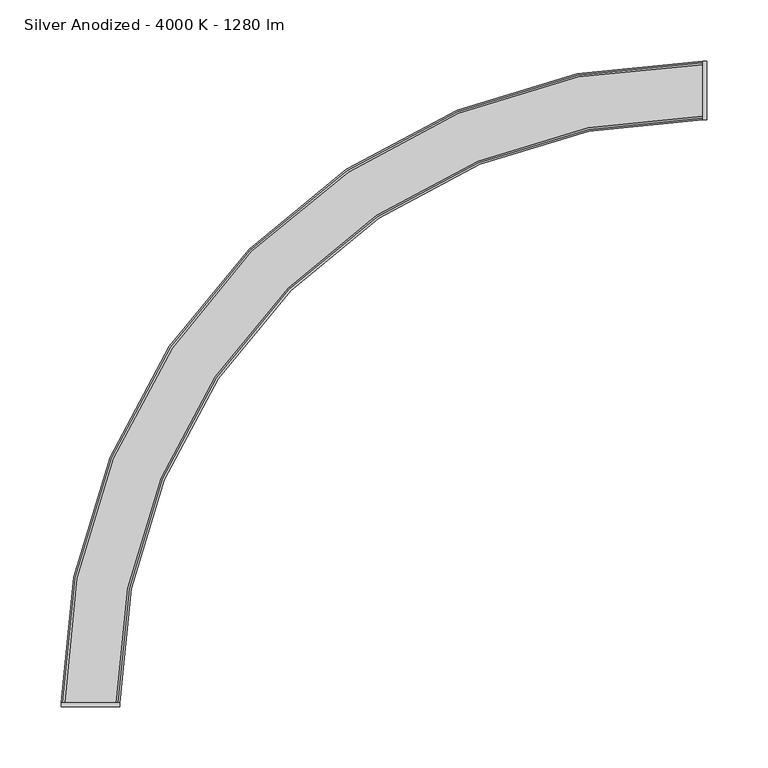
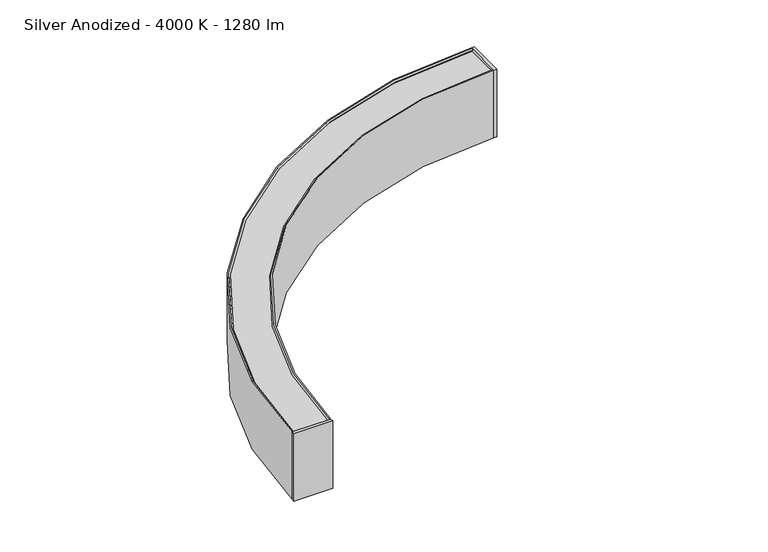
"""IFC4 building model written with IfcOpenShell, lengths in millimetres: light fixture geometry, KLUŚ - SERPENT - R NT 1_4 r 500 : Silver Anodized - 4000 K - 1280 lm."""

from ifc_helpers import new_model, si_unit, point, frame, frame_2d, origin, origin_with_axes, place, context, project, spatial, polyline, circle_curve, trimmed, segment, composite_curve, outline, extrude, source, transform, mapped, element, save
from ifc_brep_helpers import plane_surface, cylinder_surface, revolved_surface, advanced_brep


def silver_anodized_4000_k_1280_lm_8471934a(model_context):
    return source(origin(), model_context, "Body", "SolidModel", [
        advanced_brep(
        [(383.3695119, 482.0926563, 0.8), (381.488375, 489.8683443, 0.8), (381.488375, 489.8683443, 0.0), (383.3695119, 482.0926563, 0.0), (372.113479, 469.0810567, 0.0), (373.5125746, 463.2978887, 5.3344882), (373.5125746, 463.2978887, 14.5), (373.3244609, 464.0754575, 14.5), (373.3244609, 464.0754575, 5.691693), (372.0414988, 469.3785872, 0.8), (365.6014801, 495.9984342, 0.8), (364.318518, 501.3015639, 5.691693), (364.318518, 501.3015639, 14.5), (364.1304043, 502.0791327, 14.5), (364.1304043, 502.0791327, 5.3344882), (365.5294999, 496.2959647, 0.0), (399.328387, 475.6650359, 0.0), (392.7444079, 502.8799439, 0.0), (391.3453123, 508.6631118, 5.3344882), (391.3453123, 508.6631118, 14.5), (391.533426, 507.885543, 14.5), (391.533426, 507.885543, 5.691693), (392.8163881, 502.5824134, 0.8), (399.2564068, 475.9625663, 0.8), (400.5393689, 470.6594367, 5.691693), (400.5393689, 470.6594367, 14.5), (400.7274826, 469.8818679, 14.5), (400.7274826, 469.8818679, 5.3344882)],
        [
            (0, 1, circle_curve(frame((382.4289434, 485.9805003, 0.8), z_axis=(0.0, 0.0, 1.0), x_axis=(0.235142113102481, -0.9719610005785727, 0.0)), 4.0)),
            (1, 2),
            (2, 3, circle_curve(frame((382.4289434, 485.9805003, 0.0), z_axis=(0.0, 0.0, -1.0), x_axis=(0.235142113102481, -0.9719610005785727, 0.0)), 4.0)),
            (3, 0),
            (3, 2, circle_curve(frame((382.4289434, 485.9805003, 0.0), z_axis=(0.0, 0.0, -1.0), x_axis=(0.235142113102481, -0.9719610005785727, 0.0)), 4.0)),
            (1, 0, circle_curve(frame((382.4289434, 485.9805003, 0.8), z_axis=(0.0, 0.0, 1.0), x_axis=(0.235142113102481, -0.9719610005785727, 0.0)), 4.0)),
            (4, 5),
            (5, 6),
            (6, 7),
            (7, 8),
            (8, 9),
            (9, 10),
            (10, 11),
            (11, 12),
            (12, 13),
            (13, 14),
            (14, 15),
            (15, 4),
            (16, 17),
            (17, 18),
            (18, 19),
            (19, 20),
            (20, 21),
            (21, 22),
            (22, 23),
            (23, 24),
            (24, 25),
            (25, 26),
            (26, 27),
            (27, 16),
            (15, 17),
            (16, 4),
            (14, 18),
            (13, 19),
            (12, 20),
            (11, 21),
            (10, 22),
            (9, 23),
            (8, 24),
            (7, 25),
            (6, 26),
            (5, 27),
        ],
        [
            revolved_surface(polyline([(383.3695118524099, 482.0926562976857, 0.8), (383.3695118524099, 482.0926562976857, 0.0)]), (382.4289434, 485.9805003, 0.0), (0.0, 0.0, 1.0)),
            plane_surface(frame((368.8214894, 482.6885107, 0.0), z_axis=(-0.9719610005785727, -0.235142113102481, 0.0), x_axis=(0.0, 0.0, 1.0))),
            plane_surface(frame((396.0363975, 489.2724899, 0.0), z_axis=(0.9719610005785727, 0.235142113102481, 0.0), x_axis=(0.0, 0.0, 1.0))),
            plane_surface(frame((372.113479, 469.0810567, 0.0), z_axis=(0.0, 0.0, -1.0000000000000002), x_axis=(0.9719610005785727, 0.235142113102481, 0.0))),
            plane_surface(frame((365.5294999, 496.2959647, 0.0), z_axis=(-0.15696803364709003, 0.6488280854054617, -0.7445691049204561), x_axis=(0.9719610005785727, 0.235142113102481, 0.0))),
            plane_surface(frame((364.1304043, 502.0791327, 5.3344882), z_axis=(-0.235142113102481, 0.9719610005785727, 0.0), x_axis=(0.9719610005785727, 0.235142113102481, 0.0))),
            plane_surface(frame((364.1304043, 502.0791327, 14.5), z_axis=(0.0, 0.0, 1.0000000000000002), x_axis=(0.9719610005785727, 0.235142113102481, 0.0))),
            plane_surface(frame((364.318518, 501.3015639, 14.5), z_axis=(0.235142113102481, -0.9719610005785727, 0.0), x_axis=(0.9719610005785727, 0.235142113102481, 0.0))),
            plane_surface(frame((364.318518, 501.3015639, 5.691693), z_axis=(0.15696803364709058, -0.6488280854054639, 0.744569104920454), x_axis=(0.9719610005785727, 0.235142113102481, 0.0))),
            plane_surface(frame((365.6014801, 495.9984342, 0.8), z_axis=(0.0, 0.0, 1.0000000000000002), x_axis=(0.9719610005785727, 0.235142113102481, 0.0))),
            plane_surface(frame((372.0414988, 469.3785872, 0.8), z_axis=(-0.15696803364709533, 0.6488280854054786, 0.7445691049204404), x_axis=(0.9719610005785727, 0.235142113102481, 0.0))),
            plane_surface(frame((373.3244609, 464.0754575, 5.691693), z_axis=(-0.235142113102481, 0.9719610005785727, 0.0), x_axis=(0.9719610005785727, 0.235142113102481, 0.0))),
            plane_surface(frame((373.3244609, 464.0754575, 14.5), z_axis=(0.0, 0.0, 1.0000000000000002), x_axis=(0.9719610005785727, 0.235142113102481, 0.0))),
            plane_surface(frame((373.5125746, 463.2978887, 14.5), z_axis=(0.235142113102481, -0.9719610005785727, 0.0), x_axis=(0.9719610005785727, 0.235142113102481, 0.0))),
            plane_surface(frame((373.5125746, 463.2978887, 5.3344882), z_axis=(0.15696803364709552, -0.6488280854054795, -0.7445691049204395), x_axis=(0.9719610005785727, 0.235142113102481, 0.0))),
        ],
        [
            (0, [[1, 2, 3, 4]]),
            (0, [[5, -2, 6, -4]]),
            (1, [[7, 8, 9, 10, 11, 12, 13, 14, 15, 16, 17, 18]]),
            (2, [[19, 20, 21, 22, 23, 24, 25, 26, 27, 28, 29, 30]]),
            (3, [[31, -19, 32, -18], [-5, -3]]),
            (4, [[33, -20, -31, -17]]),
            (5, [[34, -21, -33, -16]]),
            (6, [[35, -22, -34, -15]]),
            (7, [[36, -23, -35, -14]]),
            (8, [[37, -24, -36, -13]]),
            (9, [[38, -25, -37, -12], [-6, -1]]),
            (10, [[39, -26, -38, -11]]),
            (11, [[40, -27, -39, -10]]),
            (12, [[41, -28, -40, -9]]),
            (13, [[42, -29, -41, -8]]),
            (14, [[-32, -30, -42, -7]]),
        ],
    ),
        extrude(outline(polyline([(503.5, 524.0), (503.5, 476.0), (500.0, 476.0), (500.0, 524.0), (503.5, 524.0)])), frame((0.0, 0.0, 5.0), z_axis=(0.0, 0.0, 1.0), x_axis=(1.0, 0.0, 0.0)), (0.0, 0.0, 1.0), 88.0),
        extrude(outline(polyline([(24.0, -3.5), (-24.0, -3.5), (-24.0, 0.0), (24.0, 0.0), (24.0, -3.5)])), frame((0.0, 0.0, 5.0), z_axis=(0.0, 0.0, 1.0), x_axis=(1.0, 0.0, 0.0)), (0.0, 0.0, 1.0), 88.0),
        advanced_brep(
        [(17.9073437, 116.6304881, 0.8), (17.9073437, 116.6304881, 0.0), (10.1316557, 118.511625, 0.0), (10.1316557, 118.511625, 0.8), (30.9189433, 127.886521, 0.0), (3.7040353, 134.4705001, 0.0), (-2.0791327, 135.8695957, 5.3344882), (-2.0791327, 135.8695957, 14.5), (-1.3015639, 135.681482, 14.5), (-1.3015639, 135.681482, 5.691693), (4.0015658, 134.3985199, 0.8), (30.6214128, 127.9585012, 0.8), (35.9245425, 126.6755391, 5.691693), (35.9245425, 126.6755391, 14.5), (36.7021113, 126.4874254, 14.5), (36.7021113, 126.4874254, 5.3344882), (24.3349641, 100.671613, 0.0), (30.1181321, 99.2725174, 5.3344882), (30.1181321, 99.2725174, 14.5), (29.3405633, 99.4606311, 14.5), (29.3405633, 99.4606311, 5.691693), (24.0374337, 100.7435932, 0.8), (-2.5824134, 107.1836119, 0.8), (-7.885543, 108.466574, 5.691693), (-7.885543, 108.466574, 14.5), (-8.6631118, 108.6546877, 14.5), (-8.6631118, 108.6546877, 5.3344882), (-2.8799439, 107.2555921, 0.0)],
        [
            (0, 1),
            (1, 2, circle_curve(frame((14.0194997, 117.5710566, 0.0), z_axis=(0.0, 0.0, -1.0), x_axis=(0.9719610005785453, -0.23514211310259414, 0.0)), 4.0)),
            (2, 3),
            (3, 0, circle_curve(frame((14.0194997, 117.5710566, 0.8), z_axis=(0.0, 0.0, 1.0), x_axis=(0.9719610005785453, -0.23514211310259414, 0.0)), 4.0)),
            (0, 3, circle_curve(frame((14.0194997, 117.5710566, 0.8), z_axis=(0.0, 0.0, 1.0), x_axis=(0.9719610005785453, -0.23514211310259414, 0.0)), 4.0)),
            (2, 1, circle_curve(frame((14.0194997, 117.5710566, 0.0), z_axis=(0.0, 0.0, -1.0), x_axis=(0.9719610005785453, -0.23514211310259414, 0.0)), 4.0)),
            (4, 5),
            (5, 6),
            (6, 7),
            (7, 8),
            (8, 9),
            (9, 10),
            (10, 11),
            (11, 12),
            (12, 13),
            (13, 14),
            (14, 15),
            (15, 4),
            (16, 17),
            (17, 18),
            (18, 19),
            (19, 20),
            (20, 21),
            (21, 22),
            (22, 23),
            (23, 24),
            (24, 25),
            (25, 26),
            (26, 27),
            (27, 16),
            (4, 16),
            (27, 5),
            (26, 6),
            (25, 7),
            (24, 8),
            (23, 9),
            (22, 10),
            (21, 11),
            (20, 12),
            (19, 13),
            (18, 14),
            (17, 15),
        ],
        [
            revolved_surface(polyline([(17.907343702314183, 116.63048814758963, 0.8), (17.907343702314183, 116.63048814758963, 0.0)]), (14.0194997, 117.5710566, 0.0), (0.0, 0.0, 1.0)),
            plane_surface(frame((17.3114893, 131.1785106, 0.0), z_axis=(0.23514211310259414, 0.9719610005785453, 0.0), x_axis=(0.0, 0.0, 1.0))),
            plane_surface(frame((10.7275101, 103.9636025, 0.0), z_axis=(-0.23514211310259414, -0.9719610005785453, 0.0), x_axis=(0.0, 0.0, 1.0))),
            plane_surface(frame((30.9189433, 127.886521, 0.0), z_axis=(0.0, 0.0, -1.0), x_axis=(-0.23514211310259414, -0.9719610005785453, 0.0))),
            plane_surface(frame((3.7040353, 134.4705001, 0.0), z_axis=(-0.6488280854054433, 0.15696803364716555, -0.744569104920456), x_axis=(-0.23514211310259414, -0.9719610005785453, 0.0))),
            plane_surface(frame((-2.0791327, 135.8695957, 5.3344882), z_axis=(-0.9719610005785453, 0.23514211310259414, 0.0), x_axis=(-0.23514211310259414, -0.9719610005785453, 0.0))),
            plane_surface(frame((-2.0791327, 135.8695957, 14.5), z_axis=(0.0, 0.0, 1.0), x_axis=(-0.23514211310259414, -0.9719610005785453, 0.0))),
            plane_surface(frame((-1.3015639, 135.681482, 14.5), z_axis=(0.9719610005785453, -0.23514211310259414, 0.0), x_axis=(-0.23514211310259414, -0.9719610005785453, 0.0))),
            plane_surface(frame((-1.3015639, 135.681482, 5.691693), z_axis=(0.6488280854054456, -0.1569680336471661, 0.7445691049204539), x_axis=(-0.23514211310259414, -0.9719610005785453, 0.0))),
            plane_surface(frame((4.0015658, 134.3985199, 0.8), z_axis=(0.0, 0.0, 1.0), x_axis=(-0.23514211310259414, -0.9719610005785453, 0.0))),
            plane_surface(frame((30.6214128, 127.9585012, 0.8), z_axis=(-0.6488280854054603, 0.15696803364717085, 0.7445691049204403), x_axis=(-0.23514211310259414, -0.9719610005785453, 0.0))),
            plane_surface(frame((35.9245425, 126.6755391, 5.691693), z_axis=(-0.9719610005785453, 0.23514211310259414, 0.0), x_axis=(-0.23514211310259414, -0.9719610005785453, 0.0))),
            plane_surface(frame((35.9245425, 126.6755391, 14.5), z_axis=(0.0, 0.0, 1.0), x_axis=(-0.23514211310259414, -0.9719610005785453, 0.0))),
            plane_surface(frame((36.7021113, 126.4874254, 14.5), z_axis=(0.9719610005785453, -0.23514211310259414, 0.0), x_axis=(-0.23514211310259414, -0.9719610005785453, 0.0))),
            plane_surface(frame((36.7021113, 126.4874254, 5.3344882), z_axis=(0.6488280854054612, -0.15696803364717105, -0.7445691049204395), x_axis=(-0.23514211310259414, -0.9719610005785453, 0.0))),
        ],
        [
            (0, [[1, 2, 3, 4]]),
            (0, [[-1, 5, -3, 6]]),
            (1, [[7, 8, 9, 10, 11, 12, 13, 14, 15, 16, 17, 18]]),
            (2, [[19, 20, 21, 22, 23, 24, 25, 26, 27, 28, 29, 30]]),
            (3, [[-7, 31, -30, 32], [-2, -6]]),
            (4, [[-8, -32, -29, 33]]),
            (5, [[-9, -33, -28, 34]]),
            (6, [[-10, -34, -27, 35]]),
            (7, [[-11, -35, -26, 36]]),
            (8, [[-12, -36, -25, 37]]),
            (9, [[-13, -37, -24, 38], [-4, -5]]),
            (10, [[-14, -38, -23, 39]]),
            (11, [[-15, -39, -22, 40]]),
            (12, [[-16, -40, -21, 41]]),
            (13, [[-17, -41, -20, 42]]),
            (14, [[-18, -42, -19, -31]]),
        ],
    ),
        advanced_brep(
        [(19.95, 0.0, 5.0), (24.0, 0.0, 5.0), (24.0, 0.0, 93.0), (22.65, 0.0, 93.0), (21.15, 0.0, 91.2514719), (22.65, 0.0, 89.5029437), (22.65, 0.0, 13.7), (19.95, 0.0, 13.7), (500.0, 480.05, 5.0), (500.0, 480.05, 13.7), (500.0, 477.35, 13.7), (500.0, 477.35, 89.5029437), (500.0, 478.85, 91.2514719), (500.0, 477.35, 93.0), (500.0, 476.0, 93.0), (500.0, 476.0, 5.0)],
        [
            (0, 1),
            (1, 2),
            (2, 3),
            (3, 4),
            (4, 5),
            (5, 6),
            (6, 7),
            (7, 0),
            (8, 9),
            (9, 10),
            (10, 11),
            (11, 12),
            (12, 13),
            (13, 14),
            (14, 15),
            (15, 8),
            (15, 1, circle_curve(frame((500.0, 0.0, 5.0), z_axis=(0.0, 0.0, 1.0), x_axis=(-1.0, 0.0, 0.0)), 476.0)),
            (0, 8, circle_curve(frame((500.0, 0.0, 5.0), z_axis=(0.0, 0.0, -1.0), x_axis=(-1.0, 0.0, 0.0)), 480.05)),
            (14, 2, circle_curve(frame((500.0, 0.0, 93.0), z_axis=(0.0, 0.0, 1.0), x_axis=(-1.0, 0.0, 0.0)), 476.0)),
            (13, 3, circle_curve(frame((500.0, 0.0, 93.0), z_axis=(0.0, 0.0, 1.0), x_axis=(-1.0, 0.0, 0.0)), 477.35)),
            (12, 4, circle_curve(frame((500.0, 0.0, 91.2514719), z_axis=(0.0, 0.0, 1.0), x_axis=(-1.0, 0.0, 0.0)), 478.85)),
            (11, 5, circle_curve(frame((500.0, 0.0, 89.5029437), z_axis=(0.0, 0.0, 1.0), x_axis=(-1.0, 0.0, 0.0)), 477.35)),
            (10, 6, circle_curve(frame((500.0, 0.0, 13.7), z_axis=(0.0, 0.0, 1.0), x_axis=(-1.0, 0.0, 0.0)), 477.35)),
            (9, 7, circle_curve(frame((500.0, 0.0, 13.7), z_axis=(0.0, 0.0, 1.0), x_axis=(-1.0, 0.0, 0.0)), 480.05)),
        ],
        [
            plane_surface(frame((0.0, 0.0, 5.0), z_axis=(0.0, -1.0, 0.0), x_axis=(0.0, 0.0, 1.0))),
            plane_surface(frame((500.0, 500.0, 5.0), z_axis=(1.0, 0.0, 0.0), x_axis=(0.0, 0.0, 1.0))),
            plane_surface(frame((500.0, 0.0, 5.0), z_axis=(0.0, 0.0, -1.0), x_axis=(-1.0, 0.0, 0.0))),
            revolved_surface(polyline([(24.0, 0.0, 5.0), (24.0, 0.0, 93.0)]), (500.0, 0.0, 5.0), (0.0, 0.0, -1.0)),
            plane_surface(frame((500.0, 0.0, 93.0), z_axis=(0.0, 0.0, 1.0), x_axis=(-1.0, 0.0, 0.0))),
            revolved_surface(polyline([(22.65, 0.0, 93.0), (21.15, 0.0, 91.2514719)]), (500.0, 0.0, 5.0), (0.0, 0.0, -1.0)),
            revolved_surface(polyline([(21.15, 0.0, 91.2514719), (22.65, 0.0, 89.5029437)]), (500.0, 0.0, 5.0), (0.0, 0.0, -1.0)),
            cylinder_surface(frame((500.0, 0.0, 5.0), z_axis=(0.0, 0.0, -1.0), x_axis=(-1.0, 0.0, 0.0)), 477.35),
            plane_surface(frame((500.0, 0.0, 13.7), z_axis=(0.0, 0.0, 1.0), x_axis=(-1.0, 0.0, 0.0))),
            cylinder_surface(frame((500.0, 0.0, 5.0), z_axis=(0.0, 0.0, -1.0), x_axis=(-1.0, 0.0, 0.0)), 480.05),
        ],
        [
            (0, [[1, 2, 3, 4, 5, 6, 7, 8]]),
            (1, [[9, 10, 11, 12, 13, 14, 15, 16]]),
            (2, [[17, -1, 18, -16]]),
            (3, [[19, -2, -17, -15]]),
            (4, [[20, -3, -19, -14]]),
            (5, [[21, -4, -20, -13]]),
            (6, [[22, -5, -21, -12]]),
            (7, [[23, -6, -22, -11]]),
            (8, [[24, -7, -23, -10]]),
            (9, [[-18, -8, -24, -9]]),
        ],
    ),
        advanced_brep(
        [(-19.95, 0.0, 5.0), (-19.95, 0.0, 13.7), (-22.65, 0.0, 13.7), (-22.65, 0.0, 89.5029437), (-21.15, 0.0, 91.2514719), (-22.65, 0.0, 93.0), (-24.0, 0.0, 93.0), (-24.0, 0.0, 5.0), (500.0, 519.95, 5.0), (500.0, 524.0, 5.0), (500.0, 524.0, 93.0), (500.0, 522.65, 93.0), (500.0, 521.15, 91.2514719), (500.0, 522.65, 89.5029437), (500.0, 522.65, 13.7), (500.0, 519.95, 13.7)],
        [
            (0, 1),
            (1, 2),
            (2, 3),
            (3, 4),
            (4, 5),
            (5, 6),
            (6, 7),
            (7, 0),
            (8, 9),
            (9, 10),
            (10, 11),
            (11, 12),
            (12, 13),
            (13, 14),
            (14, 15),
            (15, 8),
            (15, 1, circle_curve(frame((500.0, 0.0, 13.7), z_axis=(0.0, 0.0, 1.0), x_axis=(-1.0, 0.0, 0.0)), 519.95)),
            (0, 8, circle_curve(frame((500.0, 0.0, 5.0), z_axis=(0.0, 0.0, -1.0), x_axis=(-1.0, 0.0, 0.0)), 519.95)),
            (14, 2, circle_curve(frame((500.0, 0.0, 13.7), z_axis=(0.0, 0.0, 1.0), x_axis=(-1.0, 0.0, 0.0)), 522.65)),
            (13, 3, circle_curve(frame((500.0, 0.0, 89.5029437), z_axis=(0.0, 0.0, 1.0), x_axis=(-1.0, 0.0, 0.0)), 522.65)),
            (12, 4, circle_curve(frame((500.0, 0.0, 91.2514719), z_axis=(0.0, 0.0, 1.0), x_axis=(-1.0, 0.0, 0.0)), 521.15)),
            (11, 5, circle_curve(frame((500.0, 0.0, 93.0), z_axis=(0.0, 0.0, 1.0), x_axis=(-1.0, 0.0, 0.0)), 522.65)),
            (10, 6, circle_curve(frame((500.0, 0.0, 93.0), z_axis=(0.0, 0.0, 1.0), x_axis=(-1.0, 0.0, 0.0)), 524.0)),
            (9, 7, circle_curve(frame((500.0, 0.0, 5.0), z_axis=(0.0, 0.0, 1.0), x_axis=(-1.0, 0.0, 0.0)), 524.0)),
        ],
        [
            plane_surface(frame((0.0, 0.0, 5.0), z_axis=(0.0, -1.0, 0.0), x_axis=(0.0, 0.0, 1.0))),
            plane_surface(frame((500.0, 500.0, 5.0), z_axis=(1.0, 0.0, 0.0), x_axis=(0.0, 0.0, 1.0))),
            revolved_surface(polyline([(-19.950000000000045, 0.0, 5.0), (-19.950000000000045, 0.0, 13.7)]), (500.0, 0.0, 5.0), (0.0, 0.0, -1.0)),
            plane_surface(frame((500.0, 0.0, 13.7), z_axis=(0.0, 0.0, 1.0), x_axis=(-1.0, 0.0, 0.0))),
            revolved_surface(polyline([(-22.649999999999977, 0.0, 13.7), (-22.649999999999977, 0.0, 89.5029437)]), (500.0, 0.0, 5.0), (0.0, 0.0, -1.0)),
            revolved_surface(polyline([(-22.65, 0.0, 89.5029437), (-21.15, 0.0, 91.2514719)]), (500.0, 0.0, 5.0), (0.0, 0.0, -1.0)),
            revolved_surface(polyline([(-21.15, 0.0, 91.2514719), (-22.65, 0.0, 93.0)]), (500.0, 0.0, 5.0), (0.0, 0.0, -1.0)),
            plane_surface(frame((500.0, 0.0, 93.0), z_axis=(0.0, 0.0, 1.0), x_axis=(-1.0, 0.0, 0.0))),
            cylinder_surface(frame((500.0, 0.0, 5.0), z_axis=(0.0, 0.0, -1.0), x_axis=(-1.0, 0.0, 0.0)), 524.0),
            plane_surface(frame((500.0, 0.0, 5.0), z_axis=(0.0, 0.0, -1.0), x_axis=(-1.0, 0.0, 0.0))),
        ],
        [
            (0, [[1, 2, 3, 4, 5, 6, 7, 8]]),
            (1, [[9, 10, 11, 12, 13, 14, 15, 16]]),
            (2, [[17, -1, 18, -16]]),
            (3, [[19, -2, -17, -15]]),
            (4, [[20, -3, -19, -14]]),
            (5, [[21, -4, -20, -13]]),
            (6, [[22, -5, -21, -12]]),
            (7, [[23, -6, -22, -11]]),
            (8, [[24, -7, -23, -10]]),
            (9, [[-18, -8, -24, -9]]),
        ],
    ),
        extrude(outline(composite_curve([segment(trimmed(circle_curve(frame_2d((49.4614893, 216.8295423)), 2.5), [point((51.9614893, 216.8295423))], [point((46.9614893, 216.8295423))], False, "CARTESIAN"), True, "CONTINUOUS"), segment(trimmed(circle_curve(frame_2d((49.4614893, 216.8295423)), 2.5), [point((46.9614893, 216.8295423))], [point((51.9614893, 216.8295423))], False, "CARTESIAN"), True, "CONTINUOUS")], self_intersect=False)), origin_with_axes(), (0.0, 0.0, 1.0), 24.0),
        extrude(outline(composite_curve([segment(trimmed(circle_curve(frame_2d((500.0, 0.0)), 477.35), [point((500.0, 477.35))], [point((22.65, 0.0))], True, "CARTESIAN"), True, "CONTINUOUS"), segment(polyline([(22.65, 0.0), (-22.65, 0.0)]), True, "CONTINUOUS"), segment(trimmed(circle_curve(frame_2d((500.0, 0.0)), 522.65), [point((-22.65, 0.0))], [point((500.0, 522.65))], False, "CARTESIAN"), True, "CONTINUOUS"), segment(polyline([(500.0, 522.65), (500.0, 477.35)]), True, "CONTINUOUS")], self_intersect=False)), frame((0.0, 0.0, 88.0), z_axis=(0.0, 0.0, 1.0), x_axis=(1.0, 0.0, 0.0)), (0.0, 0.0, 1.0), 1.5),
        extrude(outline(composite_curve([segment(trimmed(circle_curve(frame_2d((500.0, 0.0)), 477.35), [point((500.0, 477.35))], [point((22.65, 0.0))], True, "CARTESIAN"), True, "CONTINUOUS"), segment(polyline([(22.65, 0.0), (-22.65, 0.0)]), True, "CONTINUOUS"), segment(trimmed(circle_curve(frame_2d((500.0, 0.0)), 522.65), [point((-22.65, 0.0))], [point((500.0, 522.65))], False, "CARTESIAN"), True, "CONTINUOUS"), segment(polyline([(500.0, 522.65), (500.0, 477.35)]), True, "CONTINUOUS")], self_intersect=False)), frame((0.0, 0.0, 24.0), z_axis=(0.0, 0.0, 1.0), x_axis=(1.0, 0.0, 0.0)), (0.0, 0.0, 1.0), 2.0),
        extrude(outline(composite_curve([segment(trimmed(circle_curve(frame_2d((500.0, 0.0)), 477.35), [point((500.0, 477.35))], [point((22.65, 0.0))], True, "CARTESIAN"), True, "CONTINUOUS"), segment(polyline([(22.65, 0.0), (-22.65, 0.0)]), True, "CONTINUOUS"), segment(trimmed(circle_curve(frame_2d((500.0, 0.0)), 522.65), [point((-22.65, 0.0))], [point((500.0, 522.65))], False, "CARTESIAN"), True, "CONTINUOUS"), segment(polyline([(500.0, 522.65), (500.0, 477.35)]), True, "CONTINUOUS")], self_intersect=False)), frame((0.0, 0.0, 59.5), z_axis=(0.0, 0.0, 1.0), x_axis=(1.0, 0.0, 0.0)), (0.0, 0.0, 1.0), 1.5),
    ])


if __name__ == "__main__":
    model = new_model("IFC4")
    model_context = context("Model", 3, world=origin())
    ifc_project = project(units=[si_unit("LENGTHUNIT", "METRE", prefix="MILLI")], contexts=[model_context])
    site = spatial("IfcSite", under=ifc_project)
    building = spatial("IfcBuilding", under=site)
    placement = place(None, origin())
    silver_anodized_4000_k_1280_lm_shape = silver_anodized_4000_k_1280_lm_8471934a(model_context)
    element("IfcLightFixture", 1, ObjectType="KLUŚ - SERPENT - R NT 1_4 r 500 : Silver Anodized - 4000 K - 1280 lm", at=placement, inside=building, context=model_context, shape_type="MappedRepresentation", body=[
        mapped(silver_anodized_4000_k_1280_lm_shape, transform((0.0, 0.0, 0.0), x_axis=(1.0, 0.0, 0.0), y_axis=(0.0, 1.0, 0.0), z_axis=(0.0, 0.0, 1.0))),
    ])
    save(model, "model.ifc")
